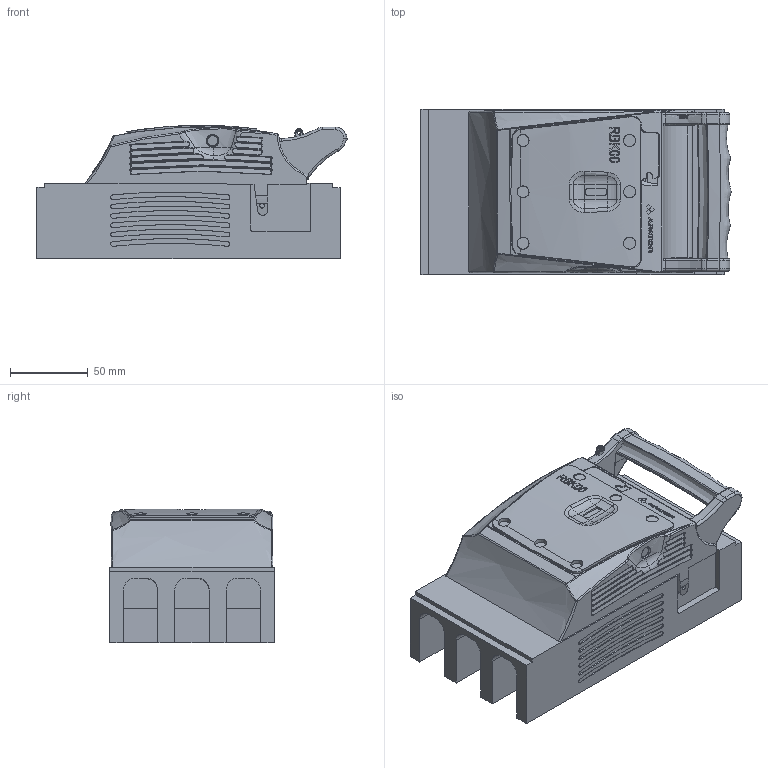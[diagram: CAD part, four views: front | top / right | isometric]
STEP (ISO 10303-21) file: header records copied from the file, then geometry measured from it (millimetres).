
FILE_DESCRIPTION(/* description */ (''),/* implementation_level */ '2;1');
FILE_NAME(/* name */ 'RBK 00-W - 63-823333-141.stp',/* time_stamp */ '2019-03-05T14:42:00+01:00',/* author */ (''),/* organization */ (''),/* preprocessor_version */ 'ST-DEVELOPER v16',/* originating_system */ 'SIEMENS PLM Software NX 10.0',/* authorisation */ '');
FILE_SCHEMA (('AUTOMOTIVE_DESIGN { 1 0 10303 214 3 1 1 1 }'));
Products named in the file (1): 710_1A04BEC5w005
Bounding box: 199.47 x 106 x 85.77 mm (x, y, z)
Volume: 1232222 mm3; surface area: 119039.4 mm2
Topology: 1 solids, 4 shells, 1393 faces, 3881 edges, 2538 vertices
Faces by surface type: plane 831, bspline 230, cylinder 129, cone 104, extrusion 38, torus 37, sphere 18, revolution 6
Full cylindrical faces by diameter (mm): 2.2 x1, 5.2 x4, 6.6 x1
Entity records: 66883 total; most frequent: CARTESIAN_POINT 28208, ORIENTED_EDGE 7656, DIRECTION 7117, EDGE_CURVE 3828, AXIS2_PLACEMENT_3D 2824, VERTEX_POINT 2526, EDGE_LOOP 1482, VECTOR 1463
